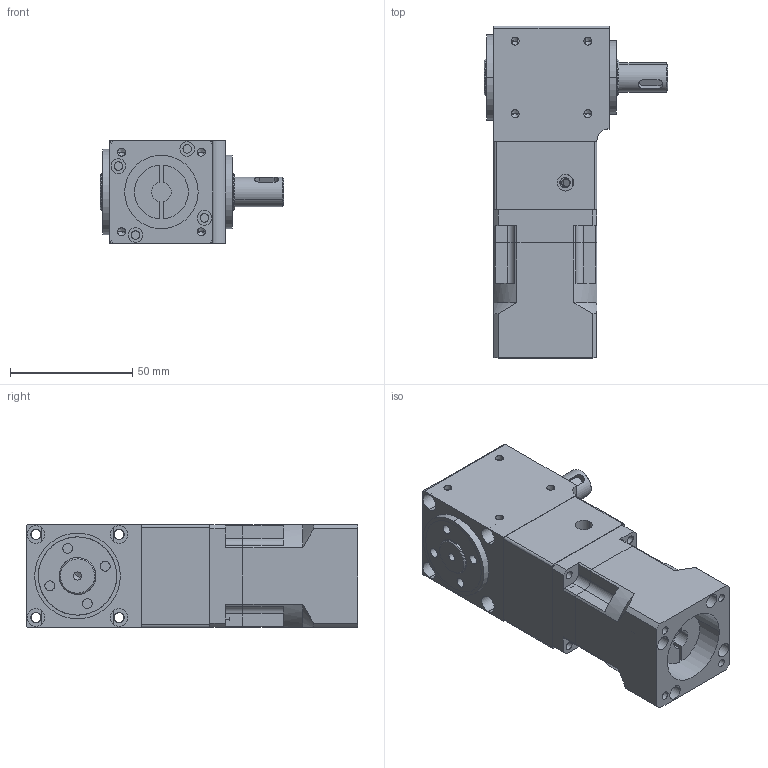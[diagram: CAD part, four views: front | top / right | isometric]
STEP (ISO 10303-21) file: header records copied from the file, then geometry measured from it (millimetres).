
FILE_DESCRIPTION (( 'STEP AP203' ), '1' );
FILE_NAME ('×°ÅäÌå4.STEP', '2023-09-13T03:53:22', ( 'User' ), ( 'China' ), 'SwSTEP 2.0', 'SolidWorks 2015', '' );
FILE_SCHEMA (( 'CONFIG_CONTROL_DESIGN' ));
Length unit declared in the file: millimetre
Products named in the file (13): deep groove ball bearings gb_Rolling bearings 61902 GB 276-94; 褲极; 綴楊擘ㄗ怢湛100Wㄘ; 怀堤粣ㄗ等粣ㄘ; 42等粣ㄗ怢湛100Wㄘ; 输入轴; KPF42-L1-10粣(8-25-30-1.6-4-4.5-46); 蹟譫; 蚾饜极4; 蹟譫ㄗ2ㄘ; 標杶ㄗ1ㄘ; deep groove ball bearings gb_Rolling bearings 6001 GB 276-94; deep groove ball bearings gb_Rolling bearings 6002 GB 276-94
Assembly tree (12 placements, depth 3):
  蚾饜极4
    42等粣ㄗ怢湛100Wㄘ
      褲极
      怀堤粣ㄗ等粣ㄘ
      输入轴
      蹟譫
      蹟譫ㄗ2ㄘ
      標杶ㄗ1ㄘ
      deep groove ball bearings gb_Rolling bearings 6001 GB 276-94
      deep groove ball bearings gb_Rolling bearings 6002 GB 276-94
      deep groove ball bearings gb_Rolling bearings 61902 GB 276-94
      綴楊擘ㄗ怢湛100Wㄘ
    KPF42-L1-10粣(8-25-30-1.6-4-4.5-46)
Bounding box: 75 x 135.5 x 42 mm (x, y, z)
Volume: 191722.6 mm3; surface area: 79133.8 mm2
Topology: 12 solids, 12 shells, 852 faces, 2876 edges, 1884 vertices
Faces by surface type: cylinder 335, torus 177, plane 157, sphere 98, cone 85
Entity records: 35089 total; most frequent: CARTESIAN_POINT 10844, ORIENTED_EDGE 5060, DIRECTION 4684, EDGE_CURVE 2530, AXIS2_PLACEMENT_3D 2048, VERTEX_POINT 1688, CIRCLE 1180, EDGE_LOOP 1014
